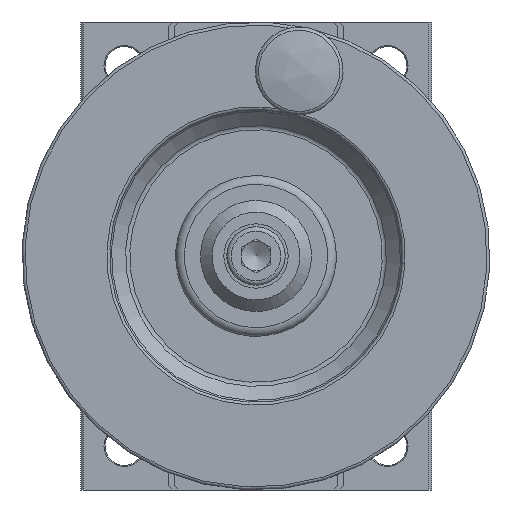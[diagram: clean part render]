
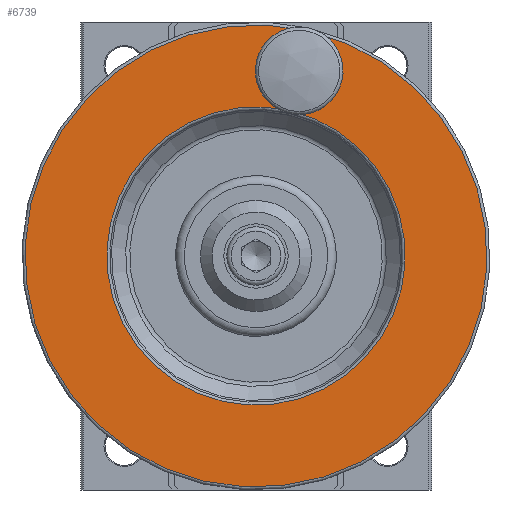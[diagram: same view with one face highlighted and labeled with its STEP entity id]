
A CAD part, left-side view. The second image highlights one B-rep face of the part: STEP entity #6739.
In plain terms, the highlighted planar face has unit normal (-1, 0, 0).
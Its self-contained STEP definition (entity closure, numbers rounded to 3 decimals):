
#718 = CARTESIAN_POINT ( 'NONE',  ( -5., 14., -40. ) ) ;
#776 = DIRECTION ( 'NONE',  ( 1., 0., 0. ) ) ;
#1002 = EDGE_CURVE ( 'NONE', #9321, #9321, #1120, .T. ) ;
#1120 = CIRCLE ( 'NONE', #2082, 25.5 ) ;
#1349 = DIRECTION ( 'NONE',  ( 1., 0., 0. ) ) ;
#1355 = CARTESIAN_POINT ( 'NONE',  ( -5., -10.833, -45.793 ) ) ;
#1513 = CIRCLE ( 'NONE', #7037, 3.001 ) ;
#2082 = AXIS2_PLACEMENT_3D ( 'NONE', #4299, #13537, #13314 ) ;
#2393 = EDGE_LOOP ( 'NONE', ( #8808 ) ) ;
#2483 = FACE_BOUND ( 'NONE', #2393, .T. ) ;
#2679 = CARTESIAN_POINT ( 'NONE',  ( -5., 3.694, -9.032 ) ) ;
#2764 = EDGE_LOOP ( 'NONE', ( #8375 ) ) ;
#4095 = VERTEX_POINT ( 'NONE', #2679 ) ;
#4299 = CARTESIAN_POINT ( 'NONE',  ( -5., 14., -40. ) ) ;
#6586 = VERTEX_POINT ( 'NONE', #12363 ) ;
#6739 = ADVANCED_FACE ( 'NONE', ( #9454, #2483, #7065 ), #12849, .F. ) ;
#7037 = AXIS2_PLACEMENT_3D ( 'NONE', #13253, #776, #12343 ) ;
#7065 = FACE_OUTER_BOUND ( 'NONE', #10532, .T. ) ;
#7620 = AXIS2_PLACEMENT_3D ( 'NONE', #11635, #1349, #8346 ) ;
#8346 = DIRECTION ( 'NONE',  ( 0., -0.974, -0.227 ) ) ;
#8375 = ORIENTED_EDGE ( 'NONE', *, *, #12335, .T. ) ;
#8605 = AXIS2_PLACEMENT_3D ( 'NONE', #718, #9735, #13274 ) ;
#8808 = ORIENTED_EDGE ( 'NONE', *, *, #1002, .T. ) ;
#9321 = VERTEX_POINT ( 'NONE', #1355 ) ;
#9454 = FACE_BOUND ( 'NONE', #2764, .T. ) ;
#9735 = DIRECTION ( 'NONE',  ( -1., 0., 0. ) ) ;
#10532 = EDGE_LOOP ( 'NONE', ( #13258 ) ) ;
#11635 = CARTESIAN_POINT ( 'NONE',  ( -5., 23.088, -78.954 ) ) ;
#12335 = EDGE_CURVE ( 'NONE', #4095, #4095, #1513, .T. ) ;
#12343 = DIRECTION ( 'NONE',  ( 0., -0.974, -0.227 ) ) ;
#12363 = CARTESIAN_POINT ( 'NONE',  ( -5., -24.467, -48.974 ) ) ;
#12849 = PLANE ( 'NONE',  #7620 ) ;
#13253 = CARTESIAN_POINT ( 'NONE',  ( -5., 6.616, -8.35 ) ) ;
#13258 = ORIENTED_EDGE ( 'NONE', *, *, #14398, .T. ) ;
#13274 = DIRECTION ( 'NONE',  ( 0., -0.974, -0.227 ) ) ;
#13314 = DIRECTION ( 'NONE',  ( 0., -0.974, -0.227 ) ) ;
#13537 = DIRECTION ( 'NONE',  ( 1., 0., 0. ) ) ;
#14108 = CIRCLE ( 'NONE', #8605, 39.5 ) ;
#14398 = EDGE_CURVE ( 'NONE', #6586, #6586, #14108, .T. ) ;
